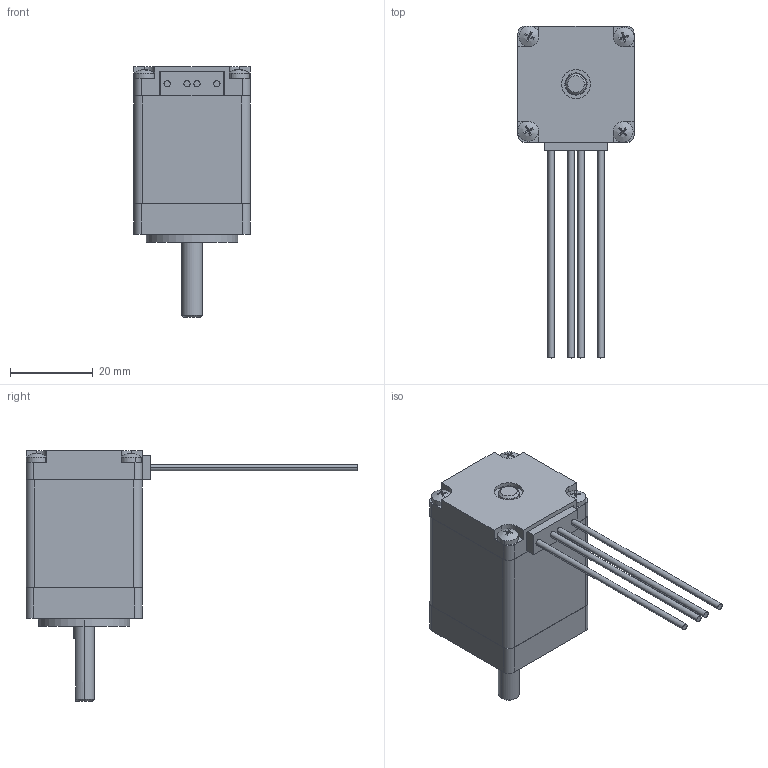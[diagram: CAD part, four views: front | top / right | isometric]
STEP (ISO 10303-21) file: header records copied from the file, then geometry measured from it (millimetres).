
FILE_DESCRIPTION (( 'STEP AP203' ), '1' );
FILE_NAME ('YK28HB40-01A.STEP', '2020-06-15T06:24:43', ( '' ), ( '' ), 'SwSTEP 2.0', 'SolidWorks 2016', '' );
FILE_SCHEMA (( 'CONFIG_CONTROL_DESIGN' ));
Length unit declared in the file: millimetre
Products named in the file (12): 蛌赽え; 隅赽; 粣杶; 綴傷裔; 蹟隊; 粣郋; 盄縐; 棠詩; 綴粣杶; 粣創; ヶ傷裔; YK28HB40-01A
Assembly tree (18 placements, depth 2):
  YK28HB40-01A
    蛌赽え  x3
    棠詩  x2
    粣杶
    綴粣杶
    粣創  x2
    ヶ傷裔
    隅赽
    綴傷裔
    盄縐
    蹟隊  x4
    粣郋
Bounding box: 28 x 80 x 60.3 mm (x, y, z)
Volume: 27487.4 mm3; surface area: 21658 mm2
Topology: 18 solids, 18 shells, 1192 faces, 2648 edges, 1513 vertices
Faces by surface type: cone 893, plane 147, cylinder 124, bspline 28
Entity records: 14146 total; most frequent: DIRECTION 2385, CARTESIAN_POINT 2333, ORIENTED_EDGE 2024, EDGE_CURVE 1012, AXIS2_PLACEMENT_3D 946, VERTEX_POINT 606, EDGE_LOOP 498, LINE 493
